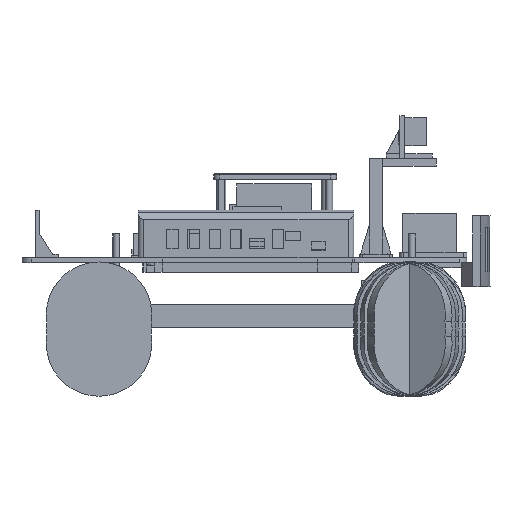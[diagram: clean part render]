
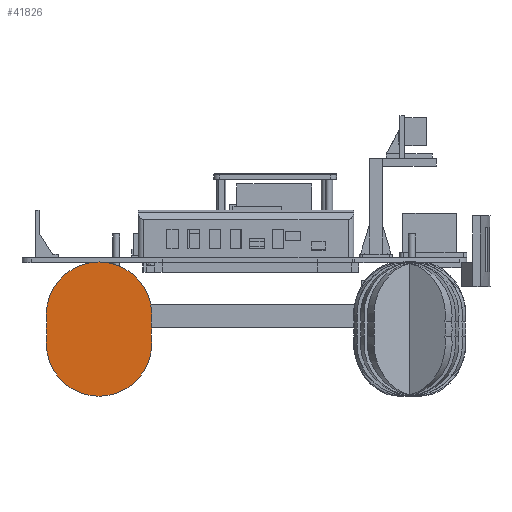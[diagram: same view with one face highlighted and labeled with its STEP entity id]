
A CAD part, front view. The second image highlights one B-rep face of the part: STEP entity #41826.
In plain terms, the highlighted planar face has unit normal (0, -1, 0).
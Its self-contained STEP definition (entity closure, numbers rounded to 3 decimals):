
#41826 = ADVANCED_FACE('',(#41827),#41842,.F.);
#41827 = FACE_BOUND('',#41828,.F.);
#41828 = EDGE_LOOP('',(#41829,#41869,#41898,#41931));
#41829 = ORIENTED_EDGE('',*,*,#41830,.F.);
#41830 = EDGE_CURVE('',#41831,#41833,#41835,.T.);
#41831 = VERTEX_POINT('',#41832);
#41832 = CARTESIAN_POINT('',(-91.214,-148.,-81.675));
#41833 = VERTEX_POINT('',#41834);
#41834 = CARTESIAN_POINT('',(-91.214,-148.,-66.675));
#41835 = SURFACE_CURVE('',#41836,(#41841,#41857),.PCURVE_S1.);
#41836 = CIRCLE('',#41837,55.);
#41837 = AXIS2_PLACEMENT_3D('',#41838,#41839,#41840);
#41838 = CARTESIAN_POINT('',(-145.7,-148.,-74.175));
#41839 = DIRECTION('',(0.,-1.,0.));
#41840 = DIRECTION('',(0.991,0.,-0.136));
#41841 = PCURVE('',#41842,#41847);
#41842 = PLANE('',#41843);
#41843 = AXIS2_PLACEMENT_3D('',#41844,#41845,#41846);
#41844 = CARTESIAN_POINT('',(-145.7,-148.,-89.175));
#41845 = DIRECTION('',(0.,1.,0.));
#41846 = DIRECTION('',(0.,0.,1.));
#41847 = DEFINITIONAL_REPRESENTATION('',(#41848),#41856);
#41848 = ( BOUNDED_CURVE() B_SPLINE_CURVE(2,(#41849,#41850,#41851,#41852
    ,#41853,#41854,#41855),.UNSPECIFIED.,.T.,.F.) 
B_SPLINE_CURVE_WITH_KNOTS((1,2,2,2,2,1),(-2.094,0.,
    2.094,4.189,6.283,8.378),
.UNSPECIFIED.) CURVE() GEOMETRIC_REPRESENTATION_ITEM() 
RATIONAL_B_SPLINE_CURVE((1.,0.5,1.,0.5,1.,0.5,1.)) REPRESENTATION_ITEM(
  '') );
#41849 = CARTESIAN_POINT('',(7.5,54.486));
#41850 = CARTESIAN_POINT('',(101.873,67.477));
#41851 = CARTESIAN_POINT('',(65.936,-20.748));
#41852 = CARTESIAN_POINT('',(30.,-108.972));
#41853 = CARTESIAN_POINT('',(-28.436,-33.738));
#41854 = CARTESIAN_POINT('',(-86.873,41.496));
#41855 = CARTESIAN_POINT('',(7.5,54.486));
#41856 = ( GEOMETRIC_REPRESENTATION_CONTEXT(2) 
PARAMETRIC_REPRESENTATION_CONTEXT() REPRESENTATION_CONTEXT('2D SPACE',''
  ) );
#41857 = PCURVE('',#41858,#41863);
#41858 = CYLINDRICAL_SURFACE('',#41859,55.);
#41859 = AXIS2_PLACEMENT_3D('',#41860,#41861,#41862);
#41860 = CARTESIAN_POINT('',(-145.7,-148.,-74.175));
#41861 = DIRECTION('',(0.,1.,0.));
#41862 = DIRECTION('',(0.,0.,1.));
#41863 = DEFINITIONAL_REPRESENTATION('',(#41864),#41868);
#41864 = LINE('',#41865,#41866);
#41865 = CARTESIAN_POINT('',(7.991,0.));
#41866 = VECTOR('',#41867,1.);
#41867 = DIRECTION('',(-1.,-0.));
#41868 = ( GEOMETRIC_REPRESENTATION_CONTEXT(2) 
PARAMETRIC_REPRESENTATION_CONTEXT() REPRESENTATION_CONTEXT('2D SPACE',''
  ) );
#41869 = ORIENTED_EDGE('',*,*,#41870,.T.);
#41870 = EDGE_CURVE('',#41831,#41871,#41873,.T.);
#41871 = VERTEX_POINT('',#41872);
#41872 = CARTESIAN_POINT('',(-200.186,-148.,-81.675));
#41873 = SURFACE_CURVE('',#41874,(#41879,#41886),.PCURVE_S1.);
#41874 = CIRCLE('',#41875,55.);
#41875 = AXIS2_PLACEMENT_3D('',#41876,#41877,#41878);
#41876 = CARTESIAN_POINT('',(-145.7,-148.,-89.175));
#41877 = DIRECTION('',(0.,1.,0.));
#41878 = DIRECTION('',(0.,0.,1.));
#41879 = PCURVE('',#41842,#41880);
#41880 = DEFINITIONAL_REPRESENTATION('',(#41881),#41885);
#41881 = CIRCLE('',#41882,55.);
#41882 = AXIS2_PLACEMENT_2D('',#41883,#41884);
#41883 = CARTESIAN_POINT('',(0.,0.));
#41884 = DIRECTION('',(1.,0.));
#41885 = ( GEOMETRIC_REPRESENTATION_CONTEXT(2) 
PARAMETRIC_REPRESENTATION_CONTEXT() REPRESENTATION_CONTEXT('2D SPACE',''
  ) );
#41886 = PCURVE('',#41887,#41892);
#41887 = CYLINDRICAL_SURFACE('',#41888,55.);
#41888 = AXIS2_PLACEMENT_3D('',#41889,#41890,#41891);
#41889 = CARTESIAN_POINT('',(-145.7,-148.,-89.175));
#41890 = DIRECTION('',(0.,1.,0.));
#41891 = DIRECTION('',(0.,0.,1.));
#41892 = DEFINITIONAL_REPRESENTATION('',(#41893),#41897);
#41893 = LINE('',#41894,#41895);
#41894 = CARTESIAN_POINT('',(0.,0.));
#41895 = VECTOR('',#41896,1.);
#41896 = DIRECTION('',(1.,0.));
#41897 = ( GEOMETRIC_REPRESENTATION_CONTEXT(2) 
PARAMETRIC_REPRESENTATION_CONTEXT() REPRESENTATION_CONTEXT('2D SPACE',''
  ) );
#41898 = ORIENTED_EDGE('',*,*,#41899,.F.);
#41899 = EDGE_CURVE('',#41900,#41871,#41902,.T.);
#41900 = VERTEX_POINT('',#41901);
#41901 = CARTESIAN_POINT('',(-200.186,-148.,-66.675));
#41902 = SURFACE_CURVE('',#41903,(#41908,#41919),.PCURVE_S1.);
#41903 = CIRCLE('',#41904,55.);
#41904 = AXIS2_PLACEMENT_3D('',#41905,#41906,#41907);
#41905 = CARTESIAN_POINT('',(-145.7,-148.,-74.175));
#41906 = DIRECTION('',(0.,-1.,0.));
#41907 = DIRECTION('',(0.991,0.,-0.136));
#41908 = PCURVE('',#41842,#41909);
#41909 = DEFINITIONAL_REPRESENTATION('',(#41910),#41918);
#41910 = ( BOUNDED_CURVE() B_SPLINE_CURVE(2,(#41911,#41912,#41913,#41914
    ,#41915,#41916,#41917),.UNSPECIFIED.,.T.,.F.) 
B_SPLINE_CURVE_WITH_KNOTS((1,2,2,2,2,1),(-2.094,0.,
    2.094,4.189,6.283,8.378),
.UNSPECIFIED.) CURVE() GEOMETRIC_REPRESENTATION_ITEM() 
RATIONAL_B_SPLINE_CURVE((1.,0.5,1.,0.5,1.,0.5,1.)) REPRESENTATION_ITEM(
  '') );
#41911 = CARTESIAN_POINT('',(7.5,54.486));
#41912 = CARTESIAN_POINT('',(101.873,67.477));
#41913 = CARTESIAN_POINT('',(65.936,-20.748));
#41914 = CARTESIAN_POINT('',(30.,-108.972));
#41915 = CARTESIAN_POINT('',(-28.436,-33.738));
#41916 = CARTESIAN_POINT('',(-86.873,41.496));
#41917 = CARTESIAN_POINT('',(7.5,54.486));
#41918 = ( GEOMETRIC_REPRESENTATION_CONTEXT(2) 
PARAMETRIC_REPRESENTATION_CONTEXT() REPRESENTATION_CONTEXT('2D SPACE',''
  ) );
#41919 = PCURVE('',#41920,#41925);
#41920 = CYLINDRICAL_SURFACE('',#41921,55.);
#41921 = AXIS2_PLACEMENT_3D('',#41922,#41923,#41924);
#41922 = CARTESIAN_POINT('',(-145.7,-148.,-74.175));
#41923 = DIRECTION('',(0.,1.,0.));
#41924 = DIRECTION('',(0.,0.,1.));
#41925 = DEFINITIONAL_REPRESENTATION('',(#41926),#41930);
#41926 = LINE('',#41927,#41928);
#41927 = CARTESIAN_POINT('',(7.991,0.));
#41928 = VECTOR('',#41929,1.);
#41929 = DIRECTION('',(-1.,-0.));
#41930 = ( GEOMETRIC_REPRESENTATION_CONTEXT(2) 
PARAMETRIC_REPRESENTATION_CONTEXT() REPRESENTATION_CONTEXT('2D SPACE',''
  ) );
#41931 = ORIENTED_EDGE('',*,*,#41932,.F.);
#41932 = EDGE_CURVE('',#41833,#41900,#41933,.T.);
#41933 = SURFACE_CURVE('',#41934,(#41939,#41950),.PCURVE_S1.);
#41934 = CIRCLE('',#41935,55.);
#41935 = AXIS2_PLACEMENT_3D('',#41936,#41937,#41938);
#41936 = CARTESIAN_POINT('',(-145.7,-148.,-59.175));
#41937 = DIRECTION('',(0.,-1.,0.));
#41938 = DIRECTION('',(0.991,0.,-0.136));
#41939 = PCURVE('',#41842,#41940);
#41940 = DEFINITIONAL_REPRESENTATION('',(#41941),#41949);
#41941 = ( BOUNDED_CURVE() B_SPLINE_CURVE(2,(#41942,#41943,#41944,#41945
    ,#41946,#41947,#41948),.UNSPECIFIED.,.T.,.F.) 
B_SPLINE_CURVE_WITH_KNOTS((1,2,2,2,2,1),(-2.094,0.,
    2.094,4.189,6.283,8.378),
.UNSPECIFIED.) CURVE() GEOMETRIC_REPRESENTATION_ITEM() 
RATIONAL_B_SPLINE_CURVE((1.,0.5,1.,0.5,1.,0.5,1.)) REPRESENTATION_ITEM(
  '') );
#41942 = CARTESIAN_POINT('',(22.5,54.486));
#41943 = CARTESIAN_POINT('',(116.873,67.477));
#41944 = CARTESIAN_POINT('',(80.936,-20.748));
#41945 = CARTESIAN_POINT('',(45.,-108.972));
#41946 = CARTESIAN_POINT('',(-13.436,-33.738));
#41947 = CARTESIAN_POINT('',(-71.873,41.496));
#41948 = CARTESIAN_POINT('',(22.5,54.486));
#41949 = ( GEOMETRIC_REPRESENTATION_CONTEXT(2) 
PARAMETRIC_REPRESENTATION_CONTEXT() REPRESENTATION_CONTEXT('2D SPACE',''
  ) );
#41950 = PCURVE('',#41951,#41956);
#41951 = CYLINDRICAL_SURFACE('',#41952,55.);
#41952 = AXIS2_PLACEMENT_3D('',#41953,#41954,#41955);
#41953 = CARTESIAN_POINT('',(-145.7,-148.,-59.175));
#41954 = DIRECTION('',(0.,1.,0.));
#41955 = DIRECTION('',(0.,0.,1.));
#41956 = DEFINITIONAL_REPRESENTATION('',(#41957),#41961);
#41957 = LINE('',#41958,#41959);
#41958 = CARTESIAN_POINT('',(7.991,0.));
#41959 = VECTOR('',#41960,1.);
#41960 = DIRECTION('',(-1.,-0.));
#41961 = ( GEOMETRIC_REPRESENTATION_CONTEXT(2) 
PARAMETRIC_REPRESENTATION_CONTEXT() REPRESENTATION_CONTEXT('2D SPACE',''
  ) );
